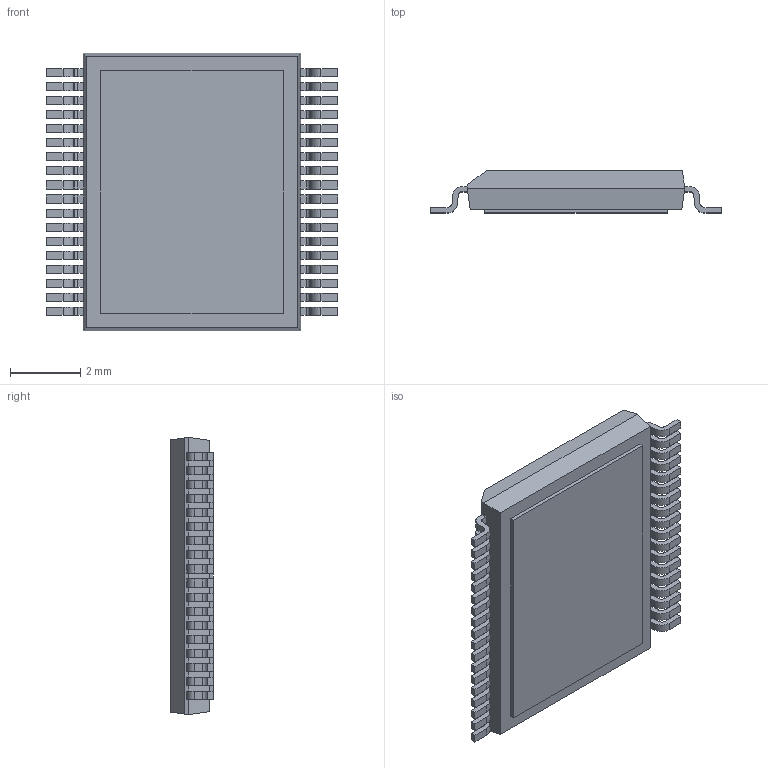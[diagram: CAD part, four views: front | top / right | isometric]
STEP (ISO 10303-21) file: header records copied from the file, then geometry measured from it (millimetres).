
FILE_DESCRIPTION (( 'STEP AP214' ), '1' );
FILE_NAME ('TSSOP40P810X120-36TP_MO-153.FAT.STEP', '2014-10-29T08:24:26', ( 'Tester2' ), ( '' ), 'SwSTEP 2.0', 'SolidWorks 2012', '' );
FILE_SCHEMA (( 'AUTOMOTIVE_DESIGN' ));
Length unit declared in the file: millimetre
Products named in the file (1): TSSOP40P810X120-36TP_MO-153.FAT
Bounding box: 8.3 x 1.2 x 7.9 mm (x, y, z)
Volume: 57.4 mm3; surface area: 165.5 mm2
Topology: 1 solids, 1 shells, 487 faces, 1445 edges, 962 vertices
Faces by surface type: plane 341, cylinder 146
Entity records: 21509 total; most frequent: CARTESIAN_POINT 2895, ORIENTED_EDGE 2890, DIRECTION 2713, EDGE_CURVE 1445, VECTOR 1153, LINE 1153, VERTEX_POINT 962, AXIS2_PLACEMENT_3D 780
